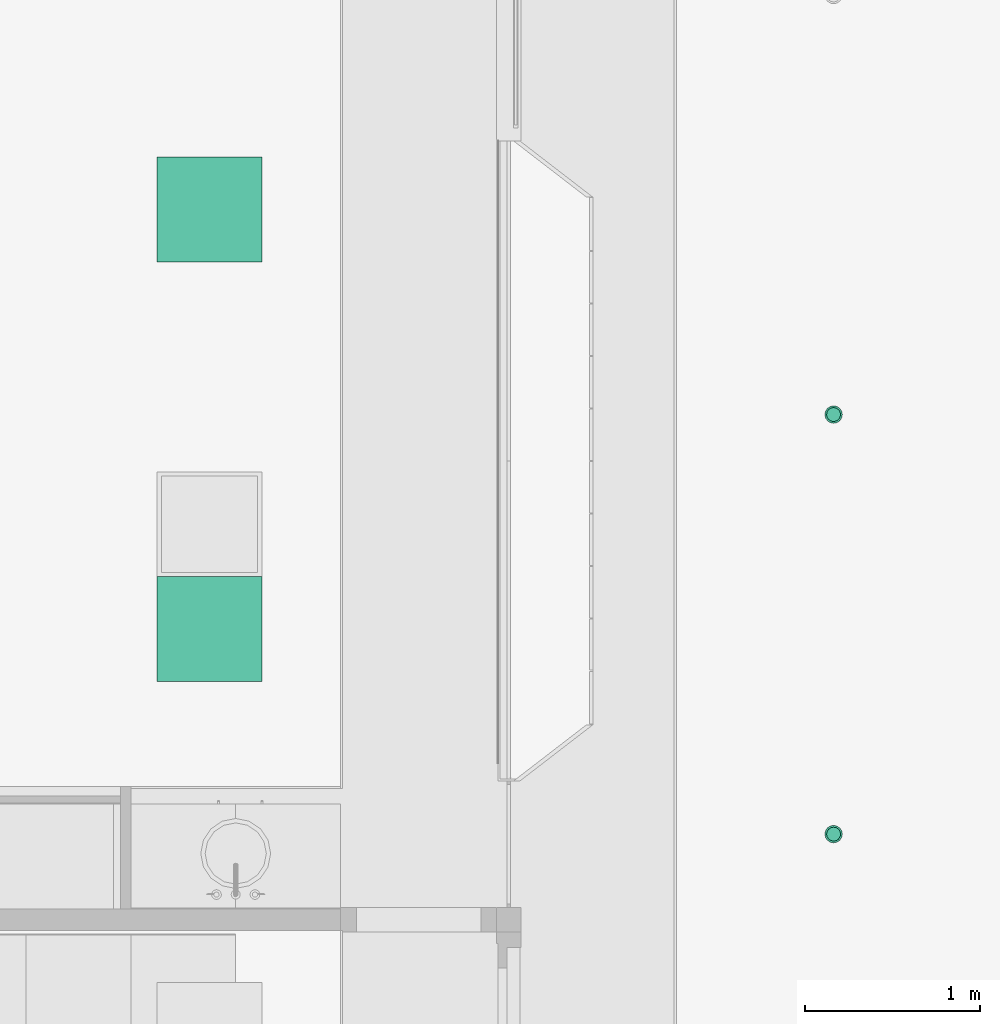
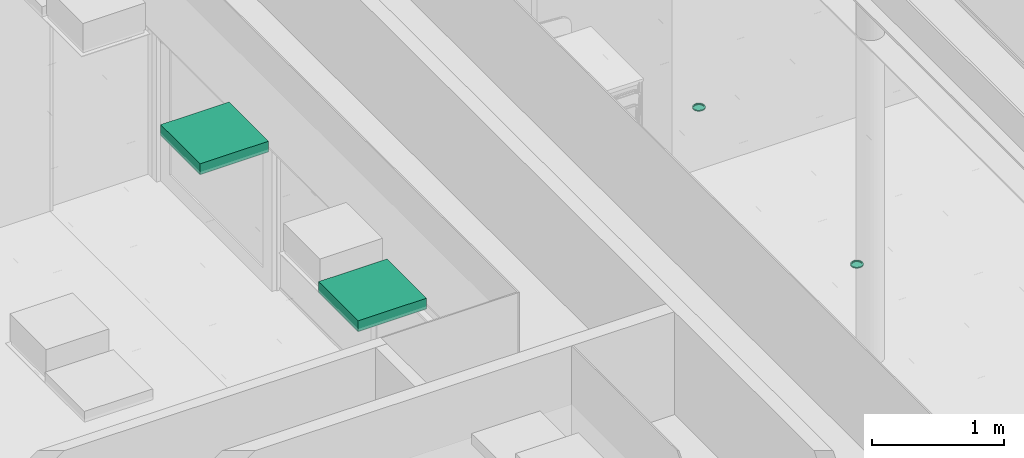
# One storey, part 220 of 347: 4 flow terminals.
"""IFC2X3 building model written with IfcOpenShell, lengths in millimetres."""

from ifc_helpers import new_model, entity, si_unit, converted_unit, derived_unit, money_unit, direction, frame, origin_with_axes, place, context, subcontext, project, spatial, open_shell, faceted_brep, surface_model, source, transform, mapped, type_object, type_shapes, element, save


model = new_model("IFC2X3")

# Units and contexts
model_context = context("Model", 3, precision=0.01, world=origin_with_axes(), true_north=direction((0.0, 1.0)))
plan_context = context("Plan", 3, precision=0.01, world=origin_with_axes(), true_north=direction((0.0, 1.0)))
body_context = subcontext(model_context, "Body", "Model", "MODEL_VIEW")
ifc_project = project(units=[si_unit("LENGTHUNIT", "METRE", prefix="MILLI"), si_unit("AREAUNIT", "SQUARE_METRE"), si_unit("VOLUMEUNIT", "CUBIC_METRE"), converted_unit("PLANEANGLEUNIT", "DEGREE", entity("IfcPlaneAngleMeasure", 0.0174532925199), si_unit("PLANEANGLEUNIT", "RADIAN"), dimensions=[0, 0, 0, 0, 0, 0, 0]), money_unit("EUR"), converted_unit("TIMEUNIT", "Year", entity("IfcTimeMeasure", 31556926.0), si_unit("TIMEUNIT", "SECOND"), dimensions=[0, 0, 1, 0, 0, 0, 0]), si_unit("MASSUNIT", "GRAM", prefix="KILO"), si_unit("THERMODYNAMICTEMPERATUREUNIT", "DEGREE_CELSIUS"), si_unit("LUMINOUSINTENSITYUNIT", "LUMEN"), si_unit("ENERGYUNIT", "JOULE", prefix="MEGA"), derived_unit("THERMALCONDUCTANCEUNIT", [(si_unit("POWERUNIT", "WATT"), 1), (si_unit("LENGTHUNIT", "METRE"), -1), (si_unit("THERMODYNAMICTEMPERATUREUNIT", "KELVIN"), -1)]), derived_unit("SPECIFICHEATCAPACITYUNIT", [(si_unit("ENERGYUNIT", "JOULE"), 1), (si_unit("MASSUNIT", "GRAM", prefix="KILO"), -1), (si_unit("THERMODYNAMICTEMPERATUREUNIT", "KELVIN"), -1)]), derived_unit("MASSDENSITYUNIT", [(si_unit("MASSUNIT", "GRAM", prefix="KILO"), 1), (si_unit("VOLUMEUNIT", "CUBIC_METRE"), -1)])], contexts=[model_context, plan_context])

# Site, building, storey
site_placement = place(None, origin_with_axes())
site = spatial("IfcSite", under=ifc_project, at=site_placement, Name="Site", CompositionType="ELEMENT")
building_placement = place(site_placement, origin_with_axes())
building = spatial("IfcBuilding", under=site, at=building_placement, Name="Naam gebouw", CompositionType="ELEMENT")
storey_placement = place(building_placement, origin_with_axes())
storey = spatial("IfcBuildingStorey", under=building, at=storey_placement, Name="begane grond", CompositionType="ELEMENT", Elevation=0.0)

# Flow terminals
lamp_type_1 = type_object("IfcLampType", Name="Spot plafond 01 25", PredefinedType="NOTDEFINED")
shared_shape_1 = source(origin_with_axes(), body_context, "Body", "SurfaceModel", [
    faceted_brep([(50.0, 0.0, -10.0), (46.1939766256, 19.1341716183, -10.0), (46.1939766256, 19.1341716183, 0.0), (50.0, 0.0, 0.0), (46.1939766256, -19.1341716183, -10.0), (35.3553390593, -35.3553390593, -10.0), (19.1341716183, -46.1939766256, -10.0), (0.0, -50.0, -10.0), (-19.1341716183, -46.1939766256, -10.0), (-35.3553390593, -35.3553390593, -10.0), (-46.1939766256, -19.1341716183, -10.0), (-50.0, 0.0, -10.0), (-46.1939766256, 19.1341716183, -10.0), (-35.3553390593, 35.3553390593, -10.0), (-19.1341716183, 46.1939766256, -10.0), (0.0, 50.0, -10.0), (19.1341716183, 46.1939766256, -10.0), (35.3553390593, 35.3553390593, -10.0), (40.0, 0.0, -10.0), (36.9551813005, 15.3073372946, -10.0), (28.2842712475, 28.2842712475, -10.0), (15.3073372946, 36.9551813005, -10.0), (0.0, 40.0, -10.0), (-15.3073372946, 36.9551813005, -10.0), (-28.2842712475, 28.2842712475, -10.0), (-36.9551813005, 15.3073372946, -10.0), (-40.0, 0.0, -10.0), (-36.9551813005, -15.3073372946, -10.0), (-28.2842712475, -28.2842712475, -10.0), (-15.3073372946, -36.9551813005, -10.0), (0.0, -40.0, -10.0), (15.3073372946, -36.9551813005, -10.0), (28.2842712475, -28.2842712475, -10.0), (36.9551813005, -15.3073372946, -10.0), (35.3553390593, 35.3553390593, 0.0), (19.1341716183, 46.1939766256, 0.0), (0.0, 50.0, 0.0), (-19.1341716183, 46.1939766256, 0.0), (-35.3553390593, 35.3553390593, 0.0), (-46.1939766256, 19.1341716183, 0.0), (-50.0, 0.0, 0.0), (-46.1939766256, -19.1341716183, 0.0), (-35.3553390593, -35.3553390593, 0.0), (-19.1341716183, -46.1939766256, 0.0), (0.0, -50.0, 0.0), (19.1341716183, -46.1939766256, 0.0), (35.3553390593, -35.3553390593, 0.0), (46.1939766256, -19.1341716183, 0.0), (40.0, 0.0, 0.0), (36.9551813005, -15.3073372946, 0.0), (28.2842712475, -28.2842712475, 0.0), (15.3073372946, -36.9551813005, 0.0), (0.0, -40.0, 0.0), (-15.3073372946, -36.9551813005, 0.0), (-28.2842712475, -28.2842712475, 0.0), (-36.9551813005, -15.3073372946, 0.0), (-40.0, 0.0, 0.0), (-36.9551813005, 15.3073372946, 0.0), (-28.2842712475, 28.2842712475, 0.0), (-15.3073372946, 36.9551813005, 0.0), (0.0, 40.0, 0.0), (15.3073372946, 36.9551813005, 0.0), (28.2842712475, 28.2842712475, 0.0), (36.9551813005, 15.3073372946, 0.0)], [[[0, 1, 2, 3]], [[0, 4, 5, 6, 7, 8, 9, 10, 11, 12, 13, 14, 15, 16, 17, 1], [18, 19, 20, 21, 22, 23, 24, 25, 26, 27, 28, 29, 30, 31, 32, 33]], [[1, 17, 34, 2]], [[3, 2, 34, 35, 36, 37, 38, 39, 40, 41, 42, 43, 44, 45, 46, 47], [48, 49, 50, 51, 52, 53, 54, 55, 56, 57, 58, 59, 60, 61, 62, 63]], [[4, 0, 3, 47]], [[5, 4, 47, 46]], [[6, 5, 46, 45]], [[7, 6, 45, 44]], [[8, 7, 44, 43]], [[9, 8, 43, 42]], [[10, 9, 42, 41]], [[11, 10, 41, 40]], [[12, 11, 40, 39]], [[13, 12, 39, 38]], [[14, 13, 38, 37]], [[15, 14, 37, 36]], [[16, 15, 36, 35]], [[17, 16, 35, 34]], [[19, 18, 48, 63]], [[20, 19, 63, 62]], [[21, 20, 62, 61]], [[22, 21, 61, 60]], [[23, 22, 60, 59]], [[24, 23, 59, 58]], [[25, 24, 58, 57]], [[26, 25, 57, 56]], [[27, 26, 56, 55]], [[28, 27, 55, 54]], [[29, 28, 54, 53]], [[30, 29, 53, 52]], [[31, 30, 52, 51]], [[32, 31, 51, 50]], [[33, 32, 50, 49]], [[18, 33, 49, 48]]]),
    surface_model("IfcShellBasedSurfaceModel", [(40.0, 0.0, -8.9), (36.9551813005, -15.3073372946, -8.9), (28.2842712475, -28.2842712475, -8.9), (15.3073372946, -36.9551813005, -8.9), (0.0, -40.0, -8.9), (-15.3073372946, -36.9551813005, -8.9), (-28.2842712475, -28.2842712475, -8.9), (-36.9551813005, -15.3073372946, -8.9), (-40.0, 0.0, -8.9), (-36.9551813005, 15.3073372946, -8.9), (-28.2842712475, 28.2842712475, -8.9), (-15.3073372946, 36.9551813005, -8.9), (0.0, 40.0, -8.9), (15.3073372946, 36.9551813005, -8.9), (28.2842712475, 28.2842712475, -8.9), (36.9551813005, 15.3073372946, -8.9)], [open_shell([[[0, 1, 2, 3, 4, 5, 6, 7, 8, 9, 10, 11, 12, 13, 14, 15]]])]),
])
type_shapes(lamp_type_1, [shared_shape_1])
for number, where, z_axis, x_axis, name in (
    (1, (33995.0, 22940.0001323, 3000.0), (0.0, 0.0, 1.0), (1.0, 0.0, 0.0), "63_Lamp-x"),
    (2, (33995.0, 20540.0001323, 3000.0), (0.0, 0.0, 1.0), (1.0, 0.0, 0.0), "63_Lamp-x"),
):
    element("IfcFlowTerminal", number, at=place(storey_placement, frame(where, z_axis=z_axis, x_axis=x_axis)), inside=storey, type_object=lamp_type_1, Name=name, ObjectType="Lamp", context=body_context, shape_type="MappedRepresentation", body=[
        mapped(shared_shape_1, transform((0.0, 0.0, 0.0))),
    ])
lamp_type_2 = type_object("IfcLampType", Name="TL plafond 25", PredefinedType="NOTDEFINED")
shared_shape_2 = source(origin_with_axes(), body_context, "Body", "SurfaceModel", [
    faceted_brep([(0.0, 0.0, -100.0), (600.0, 0.0, -100.0), (600.0, 0.0, 0.0), (0.0, 0.0, 0.0), (0.0, 600.0, -100.0), (600.0, 600.0, -100.0), (40.0, 40.0, -100.0), (560.0, 40.0, -100.0), (560.0, 560.0, -100.0), (40.0, 560.0, -100.0), (600.0, 600.0, 0.0), (0.0, 600.0, 0.0), (40.0, 40.0, 0.0), (40.0, 560.0, 0.0), (560.0, 560.0, 0.0), (560.0, 40.0, 0.0)], [[[0, 1, 2, 3]], [[0, 4, 5, 1], [6, 7, 8, 9]], [[1, 5, 10, 2]], [[3, 2, 10, 11], [12, 13, 14, 15]], [[4, 0, 3, 11]], [[5, 4, 11, 10]], [[7, 6, 12, 15]], [[8, 7, 15, 14]], [[9, 8, 14, 13]], [[6, 9, 13, 12]]]),
    faceted_brep([(40.0, 40.0, -16.3333333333), (560.0, 40.0, -16.3333333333), (560.0, 40.0, 0.0), (40.0, 40.0, 0.0), (40.0, 560.0, -16.3333333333), (560.0, 560.0, -16.3333333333), (560.0, 560.0, 0.0), (40.0, 560.0, 0.0)], [[[0, 1, 2, 3]], [[0, 4, 5, 1]], [[1, 5, 6, 2]], [[3, 2, 6, 7]], [[4, 0, 3, 7]], [[5, 4, 7, 6]]]),
    surface_model("IfcShellBasedSurfaceModel", [(559.0, 41.0, -100.0), (40.0, 41.0, -100.0), (40.0, 559.0, -100.0), (559.0, 559.0, -100.0)], [open_shell([[[0, 1, 2, 3]]])]),
    faceted_brep([(40.0, 40.0, -100.0), (560.0, 40.0, -100.0), (560.0, 40.0, -60.0), (40.0, 40.0, -60.0), (40.0, 560.0, -100.0), (560.0, 560.0, -100.0), (41.0, 41.0, -100.0), (559.0, 41.0, -100.0), (559.0, 559.0, -100.0), (41.0, 559.0, -100.0), (560.0, 560.0, -60.0), (40.0, 560.0, -60.0), (41.0, 41.0, -60.0), (41.0, 559.0, -60.0), (559.0, 559.0, -60.0), (559.0, 41.0, -60.0)], [[[0, 1, 2, 3]], [[0, 4, 5, 1], [6, 7, 8, 9]], [[1, 5, 10, 2]], [[3, 2, 10, 11], [12, 13, 14, 15]], [[4, 0, 3, 11]], [[5, 4, 11, 10]], [[7, 6, 12, 15]], [[8, 7, 15, 14]], [[9, 8, 14, 13]], [[6, 9, 13, 12]]]),
    faceted_brep([(40.0, 144.0, -48.3333333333), (40.0, 149.740251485, -47.191526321), (560.0, 149.740251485, -47.191526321), (560.0, 144.0, -48.3333333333), (40.0, 138.259748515, -47.191526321), (40.0, 133.393398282, -43.9399350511), (40.0, 130.141807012, -39.0735848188), (40.0, 129.0, -33.3333333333), (40.0, 130.141807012, -27.5930818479), (40.0, 133.393398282, -22.7267316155), (40.0, 138.259748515, -19.4751403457), (40.0, 144.0, -18.3333333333), (40.0, 149.740251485, -19.4751403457), (40.0, 154.606601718, -22.7267316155), (40.0, 157.858192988, -27.5930818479), (40.0, 159.0, -33.3333333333), (40.0, 157.858192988, -39.0735848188), (40.0, 154.606601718, -43.9399350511), (40.0, 144.0, -46.3333333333), (40.0, 148.974884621, -45.343767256), (40.0, 153.192388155, -42.5257214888), (40.0, 156.010433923, -38.3082179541), (40.0, 157.0, -33.3333333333), (40.0, 156.010433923, -28.3584487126), (40.0, 153.192388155, -24.1409451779), (40.0, 148.974884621, -21.3228994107), (40.0, 144.0, -20.3333333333), (40.0, 139.025115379, -21.3228994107), (40.0, 134.807611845, -24.1409451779), (40.0, 131.989566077, -28.3584487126), (40.0, 131.0, -33.3333333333), (40.0, 131.989566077, -38.3082179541), (40.0, 134.807611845, -42.5257214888), (40.0, 139.025115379, -45.343767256), (560.0, 154.606601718, -43.9399350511), (560.0, 157.858192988, -39.0735848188), (560.0, 159.0, -33.3333333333), (560.0, 157.858192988, -27.5930818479), (560.0, 154.606601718, -22.7267316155), (560.0, 149.740251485, -19.4751403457), (560.0, 144.0, -18.3333333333), (560.0, 138.259748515, -19.4751403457), (560.0, 133.393398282, -22.7267316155), (560.0, 130.141807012, -27.5930818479), (560.0, 129.0, -33.3333333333), (560.0, 130.141807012, -39.0735848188), (560.0, 133.393398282, -43.9399350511), (560.0, 138.259748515, -47.191526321), (560.0, 144.0, -46.3333333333), (560.0, 139.025115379, -45.343767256), (560.0, 134.807611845, -42.5257214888), (560.0, 131.989566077, -38.3082179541), (560.0, 131.0, -33.3333333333), (560.0, 131.989566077, -28.3584487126), (560.0, 134.807611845, -24.1409451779), (560.0, 139.025115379, -21.3228994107), (560.0, 144.0, -20.3333333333), (560.0, 148.974884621, -21.3228994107), (560.0, 153.192388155, -24.1409451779), (560.0, 156.010433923, -28.3584487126), (560.0, 157.0, -33.3333333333), (560.0, 156.010433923, -38.3082179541), (560.0, 153.192388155, -42.5257214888), (560.0, 148.974884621, -45.343767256)], [[[0, 1, 2, 3]], [[0, 4, 5, 6, 7, 8, 9, 10, 11, 12, 13, 14, 15, 16, 17, 1], [18, 19, 20, 21, 22, 23, 24, 25, 26, 27, 28, 29, 30, 31, 32, 33]], [[1, 17, 34, 2]], [[3, 2, 34, 35, 36, 37, 38, 39, 40, 41, 42, 43, 44, 45, 46, 47], [48, 49, 50, 51, 52, 53, 54, 55, 56, 57, 58, 59, 60, 61, 62, 63]], [[4, 0, 3, 47]], [[5, 4, 47, 46]], [[6, 5, 46, 45]], [[7, 6, 45, 44]], [[8, 7, 44, 43]], [[9, 8, 43, 42]], [[10, 9, 42, 41]], [[11, 10, 41, 40]], [[12, 11, 40, 39]], [[13, 12, 39, 38]], [[14, 13, 38, 37]], [[15, 14, 37, 36]], [[16, 15, 36, 35]], [[17, 16, 35, 34]], [[19, 18, 48, 63]], [[20, 19, 63, 62]], [[21, 20, 62, 61]], [[22, 21, 61, 60]], [[23, 22, 60, 59]], [[24, 23, 59, 58]], [[25, 24, 58, 57]], [[26, 25, 57, 56]], [[27, 26, 56, 55]], [[28, 27, 55, 54]], [[29, 28, 54, 53]], [[30, 29, 53, 52]], [[31, 30, 52, 51]], [[32, 31, 51, 50]], [[33, 32, 50, 49]], [[18, 33, 49, 48]]]),
    faceted_brep([(40.0, 248.0, -48.3333333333), (40.0, 253.740251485, -47.191526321), (560.0, 253.740251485, -47.191526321), (560.0, 248.0, -48.3333333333), (40.0, 242.259748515, -47.191526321), (40.0, 237.393398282, -43.9399350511), (40.0, 234.141807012, -39.0735848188), (40.0, 233.0, -33.3333333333), (40.0, 234.141807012, -27.5930818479), (40.0, 237.393398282, -22.7267316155), (40.0, 242.259748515, -19.4751403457), (40.0, 248.0, -18.3333333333), (40.0, 253.740251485, -19.4751403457), (40.0, 258.606601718, -22.7267316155), (40.0, 261.858192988, -27.5930818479), (40.0, 263.0, -33.3333333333), (40.0, 261.858192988, -39.0735848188), (40.0, 258.606601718, -43.9399350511), (40.0, 248.0, -46.3333333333), (40.0, 252.974884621, -45.343767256), (40.0, 257.192388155, -42.5257214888), (40.0, 260.010433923, -38.3082179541), (40.0, 261.0, -33.3333333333), (40.0, 260.010433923, -28.3584487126), (40.0, 257.192388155, -24.1409451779), (40.0, 252.974884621, -21.3228994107), (40.0, 248.0, -20.3333333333), (40.0, 243.025115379, -21.3228994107), (40.0, 238.807611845, -24.1409451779), (40.0, 235.989566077, -28.3584487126), (40.0, 235.0, -33.3333333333), (40.0, 235.989566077, -38.3082179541), (40.0, 238.807611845, -42.5257214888), (40.0, 243.025115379, -45.343767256), (560.0, 258.606601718, -43.9399350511), (560.0, 261.858192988, -39.0735848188), (560.0, 263.0, -33.3333333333), (560.0, 261.858192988, -27.5930818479), (560.0, 258.606601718, -22.7267316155), (560.0, 253.740251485, -19.4751403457), (560.0, 248.0, -18.3333333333), (560.0, 242.259748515, -19.4751403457), (560.0, 237.393398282, -22.7267316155), (560.0, 234.141807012, -27.5930818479), (560.0, 233.0, -33.3333333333), (560.0, 234.141807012, -39.0735848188), (560.0, 237.393398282, -43.9399350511), (560.0, 242.259748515, -47.191526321), (560.0, 248.0, -46.3333333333), (560.0, 243.025115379, -45.343767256), (560.0, 238.807611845, -42.5257214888), (560.0, 235.989566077, -38.3082179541), (560.0, 235.0, -33.3333333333), (560.0, 235.989566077, -28.3584487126), (560.0, 238.807611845, -24.1409451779), (560.0, 243.025115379, -21.3228994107), (560.0, 248.0, -20.3333333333), (560.0, 252.974884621, -21.3228994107), (560.0, 257.192388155, -24.1409451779), (560.0, 260.010433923, -28.3584487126), (560.0, 261.0, -33.3333333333), (560.0, 260.010433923, -38.3082179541), (560.0, 257.192388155, -42.5257214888), (560.0, 252.974884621, -45.343767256)], [[[0, 1, 2, 3]], [[0, 4, 5, 6, 7, 8, 9, 10, 11, 12, 13, 14, 15, 16, 17, 1], [18, 19, 20, 21, 22, 23, 24, 25, 26, 27, 28, 29, 30, 31, 32, 33]], [[1, 17, 34, 2]], [[3, 2, 34, 35, 36, 37, 38, 39, 40, 41, 42, 43, 44, 45, 46, 47], [48, 49, 50, 51, 52, 53, 54, 55, 56, 57, 58, 59, 60, 61, 62, 63]], [[4, 0, 3, 47]], [[5, 4, 47, 46]], [[6, 5, 46, 45]], [[7, 6, 45, 44]], [[8, 7, 44, 43]], [[9, 8, 43, 42]], [[10, 9, 42, 41]], [[11, 10, 41, 40]], [[12, 11, 40, 39]], [[13, 12, 39, 38]], [[14, 13, 38, 37]], [[15, 14, 37, 36]], [[16, 15, 36, 35]], [[17, 16, 35, 34]], [[19, 18, 48, 63]], [[20, 19, 63, 62]], [[21, 20, 62, 61]], [[22, 21, 61, 60]], [[23, 22, 60, 59]], [[24, 23, 59, 58]], [[25, 24, 58, 57]], [[26, 25, 57, 56]], [[27, 26, 56, 55]], [[28, 27, 55, 54]], [[29, 28, 54, 53]], [[30, 29, 53, 52]], [[31, 30, 52, 51]], [[32, 31, 51, 50]], [[33, 32, 50, 49]], [[18, 33, 49, 48]]]),
    faceted_brep([(40.0, 352.0, -48.3333333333), (40.0, 357.740251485, -47.191526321), (560.0, 357.740251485, -47.191526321), (560.0, 352.0, -48.3333333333), (40.0, 346.259748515, -47.191526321), (40.0, 341.393398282, -43.9399350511), (40.0, 338.141807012, -39.0735848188), (40.0, 337.0, -33.3333333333), (40.0, 338.141807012, -27.5930818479), (40.0, 341.393398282, -22.7267316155), (40.0, 346.259748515, -19.4751403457), (40.0, 352.0, -18.3333333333), (40.0, 357.740251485, -19.4751403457), (40.0, 362.606601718, -22.7267316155), (40.0, 365.858192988, -27.5930818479), (40.0, 367.0, -33.3333333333), (40.0, 365.858192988, -39.0735848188), (40.0, 362.606601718, -43.9399350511), (40.0, 352.0, -46.3333333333), (40.0, 356.974884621, -45.343767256), (40.0, 361.192388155, -42.5257214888), (40.0, 364.010433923, -38.3082179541), (40.0, 365.0, -33.3333333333), (40.0, 364.010433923, -28.3584487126), (40.0, 361.192388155, -24.1409451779), (40.0, 356.974884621, -21.3228994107), (40.0, 352.0, -20.3333333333), (40.0, 347.025115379, -21.3228994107), (40.0, 342.807611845, -24.1409451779), (40.0, 339.989566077, -28.3584487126), (40.0, 339.0, -33.3333333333), (40.0, 339.989566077, -38.3082179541), (40.0, 342.807611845, -42.5257214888), (40.0, 347.025115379, -45.343767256), (560.0, 362.606601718, -43.9399350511), (560.0, 365.858192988, -39.0735848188), (560.0, 367.0, -33.3333333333), (560.0, 365.858192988, -27.5930818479), (560.0, 362.606601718, -22.7267316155), (560.0, 357.740251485, -19.4751403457), (560.0, 352.0, -18.3333333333), (560.0, 346.259748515, -19.4751403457), (560.0, 341.393398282, -22.7267316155), (560.0, 338.141807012, -27.5930818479), (560.0, 337.0, -33.3333333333), (560.0, 338.141807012, -39.0735848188), (560.0, 341.393398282, -43.9399350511), (560.0, 346.259748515, -47.191526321), (560.0, 352.0, -46.3333333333), (560.0, 347.025115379, -45.343767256), (560.0, 342.807611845, -42.5257214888), (560.0, 339.989566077, -38.3082179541), (560.0, 339.0, -33.3333333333), (560.0, 339.989566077, -28.3584487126), (560.0, 342.807611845, -24.1409451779), (560.0, 347.025115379, -21.3228994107), (560.0, 352.0, -20.3333333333), (560.0, 356.974884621, -21.3228994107), (560.0, 361.192388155, -24.1409451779), (560.0, 364.010433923, -28.3584487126), (560.0, 365.0, -33.3333333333), (560.0, 364.010433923, -38.3082179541), (560.0, 361.192388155, -42.5257214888), (560.0, 356.974884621, -45.343767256)], [[[0, 1, 2, 3]], [[0, 4, 5, 6, 7, 8, 9, 10, 11, 12, 13, 14, 15, 16, 17, 1], [18, 19, 20, 21, 22, 23, 24, 25, 26, 27, 28, 29, 30, 31, 32, 33]], [[1, 17, 34, 2]], [[3, 2, 34, 35, 36, 37, 38, 39, 40, 41, 42, 43, 44, 45, 46, 47], [48, 49, 50, 51, 52, 53, 54, 55, 56, 57, 58, 59, 60, 61, 62, 63]], [[4, 0, 3, 47]], [[5, 4, 47, 46]], [[6, 5, 46, 45]], [[7, 6, 45, 44]], [[8, 7, 44, 43]], [[9, 8, 43, 42]], [[10, 9, 42, 41]], [[11, 10, 41, 40]], [[12, 11, 40, 39]], [[13, 12, 39, 38]], [[14, 13, 38, 37]], [[15, 14, 37, 36]], [[16, 15, 36, 35]], [[17, 16, 35, 34]], [[19, 18, 48, 63]], [[20, 19, 63, 62]], [[21, 20, 62, 61]], [[22, 21, 61, 60]], [[23, 22, 60, 59]], [[24, 23, 59, 58]], [[25, 24, 58, 57]], [[26, 25, 57, 56]], [[27, 26, 56, 55]], [[28, 27, 55, 54]], [[29, 28, 54, 53]], [[30, 29, 53, 52]], [[31, 30, 52, 51]], [[32, 31, 51, 50]], [[33, 32, 50, 49]], [[18, 33, 49, 48]]]),
    faceted_brep([(40.0, 456.0, -48.3333333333), (40.0, 461.740251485, -47.191526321), (560.0, 461.740251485, -47.191526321), (560.0, 456.0, -48.3333333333), (40.0, 450.259748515, -47.191526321), (40.0, 445.393398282, -43.9399350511), (40.0, 442.141807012, -39.0735848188), (40.0, 441.0, -33.3333333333), (40.0, 442.141807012, -27.5930818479), (40.0, 445.393398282, -22.7267316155), (40.0, 450.259748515, -19.4751403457), (40.0, 456.0, -18.3333333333), (40.0, 461.740251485, -19.4751403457), (40.0, 466.606601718, -22.7267316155), (40.0, 469.858192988, -27.5930818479), (40.0, 471.0, -33.3333333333), (40.0, 469.858192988, -39.0735848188), (40.0, 466.606601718, -43.9399350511), (40.0, 456.0, -46.3333333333), (40.0, 460.974884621, -45.343767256), (40.0, 465.192388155, -42.5257214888), (40.0, 468.010433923, -38.3082179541), (40.0, 469.0, -33.3333333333), (40.0, 468.010433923, -28.3584487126), (40.0, 465.192388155, -24.1409451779), (40.0, 460.974884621, -21.3228994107), (40.0, 456.0, -20.3333333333), (40.0, 451.025115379, -21.3228994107), (40.0, 446.807611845, -24.1409451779), (40.0, 443.989566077, -28.3584487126), (40.0, 443.0, -33.3333333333), (40.0, 443.989566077, -38.3082179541), (40.0, 446.807611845, -42.5257214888), (40.0, 451.025115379, -45.343767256), (560.0, 466.606601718, -43.9399350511), (560.0, 469.858192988, -39.0735848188), (560.0, 471.0, -33.3333333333), (560.0, 469.858192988, -27.5930818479), (560.0, 466.606601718, -22.7267316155), (560.0, 461.740251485, -19.4751403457), (560.0, 456.0, -18.3333333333), (560.0, 450.259748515, -19.4751403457), (560.0, 445.393398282, -22.7267316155), (560.0, 442.141807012, -27.5930818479), (560.0, 441.0, -33.3333333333), (560.0, 442.141807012, -39.0735848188), (560.0, 445.393398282, -43.9399350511), (560.0, 450.259748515, -47.191526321), (560.0, 456.0, -46.3333333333), (560.0, 451.025115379, -45.343767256), (560.0, 446.807611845, -42.5257214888), (560.0, 443.989566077, -38.3082179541), (560.0, 443.0, -33.3333333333), (560.0, 443.989566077, -28.3584487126), (560.0, 446.807611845, -24.1409451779), (560.0, 451.025115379, -21.3228994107), (560.0, 456.0, -20.3333333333), (560.0, 460.974884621, -21.3228994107), (560.0, 465.192388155, -24.1409451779), (560.0, 468.010433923, -28.3584487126), (560.0, 469.0, -33.3333333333), (560.0, 468.010433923, -38.3082179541), (560.0, 465.192388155, -42.5257214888), (560.0, 460.974884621, -45.343767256)], [[[0, 1, 2, 3]], [[0, 4, 5, 6, 7, 8, 9, 10, 11, 12, 13, 14, 15, 16, 17, 1], [18, 19, 20, 21, 22, 23, 24, 25, 26, 27, 28, 29, 30, 31, 32, 33]], [[1, 17, 34, 2]], [[3, 2, 34, 35, 36, 37, 38, 39, 40, 41, 42, 43, 44, 45, 46, 47], [48, 49, 50, 51, 52, 53, 54, 55, 56, 57, 58, 59, 60, 61, 62, 63]], [[4, 0, 3, 47]], [[5, 4, 47, 46]], [[6, 5, 46, 45]], [[7, 6, 45, 44]], [[8, 7, 44, 43]], [[9, 8, 43, 42]], [[10, 9, 42, 41]], [[11, 10, 41, 40]], [[12, 11, 40, 39]], [[13, 12, 39, 38]], [[14, 13, 38, 37]], [[15, 14, 37, 36]], [[16, 15, 36, 35]], [[17, 16, 35, 34]], [[19, 18, 48, 63]], [[20, 19, 63, 62]], [[21, 20, 62, 61]], [[22, 21, 61, 60]], [[23, 22, 60, 59]], [[24, 23, 59, 58]], [[25, 24, 58, 57]], [[26, 25, 57, 56]], [[27, 26, 56, 55]], [[28, 27, 55, 54]], [[29, 28, 54, 53]], [[30, 29, 53, 52]], [[31, 30, 52, 51]], [[32, 31, 51, 50]], [[33, 32, 50, 49]], [[18, 33, 49, 48]]]),
])
type_shapes(lamp_type_2, [shared_shape_2])
for number, where, z_axis, x_axis, name in (
    (3, (30125.0, 21412.5, 3295.0), (0.0, 0.0, 1.0), (1.0, 0.0, 0.0), "63_Lamp-x"),
    (4, (30125.0, 23812.5, 3295.0), (0.0, 0.0, 1.0), (1.0, 0.0, 0.0), "63_Lamp-x"),
):
    element("IfcFlowTerminal", number, at=place(storey_placement, frame(where, z_axis=z_axis, x_axis=x_axis)), inside=storey, type_object=lamp_type_2, Name=name, ObjectType="Lamp", context=body_context, shape_type="MappedRepresentation", body=[
        mapped(shared_shape_2, transform((0.0, 0.0, 0.0))),
    ])

save(model, "model.ifc")
